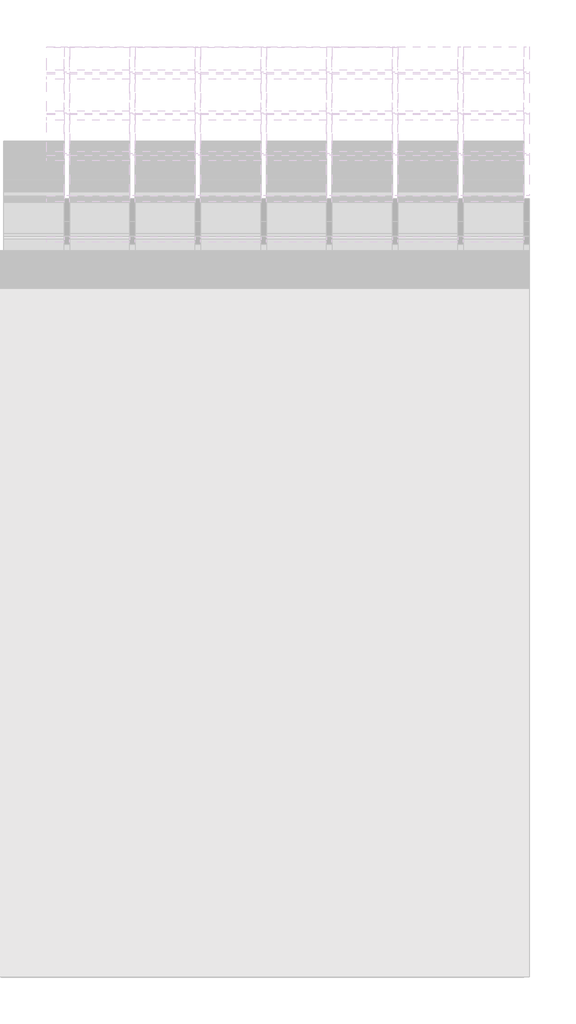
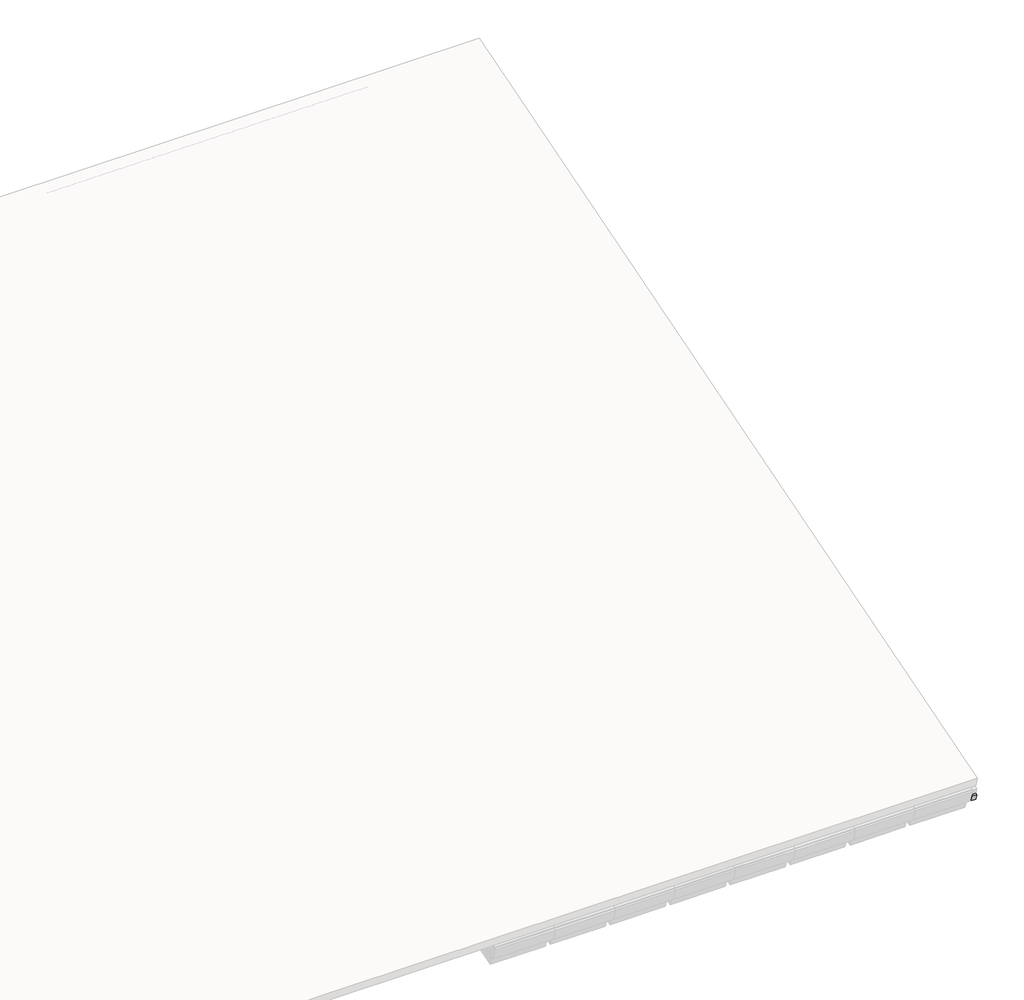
# One storey, part 53 of 57: 77 members, 46 plates.
"""IFC4 building model written with IfcOpenShell, lengths in millimetres."""

from ifc_helpers import new_model, si_unit, origin, place, context, project, spatial, transform, mapped, element, save
from components import rectangular_mullion_59984080, rectangular_mullion_2d2423ea, rectangular_mullion_caibro_e4384bba, rectangular_mullion_caibro_7d910be2, rectangular_mullion_caibro_0993a3cf, rectangular_mullion_caibro_9bd7bc61, rectangular_mullion_caibro_1dc24f21, rectangular_mullion_caibro_75ce8668, empty_system_panel_vazio_178faf58, empty_system_panel_vazio_2c78850d

model = new_model("IFC4")

# Units and contexts
model_context = context("Model", 3, world=origin())
ifc_project = project(units=[si_unit("LENGTHUNIT", "METRE", prefix="MILLI")], contexts=[model_context])

# Site, building, storey
site = spatial("IfcSite", under=ifc_project)
building = spatial("IfcBuilding", under=site)
storey = spatial("IfcBuildingStorey", under=building, Name="Nível 2", Elevation=4100.0)

# Members
placement = place(None, origin())
rectangular_mullion_shape = rectangular_mullion_59984080(model_context)
element("IfcMember", 1, ObjectType="Rectangular Mullion : Ripa", at=placement, inside=storey, context=model_context, shape_type="MappedRepresentation", body=[
    mapped(rectangular_mullion_shape, transform((41182.2945762, 9273.1150454, 3931.9836922), x_axis=(0.0, 0.9578262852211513, 0.2873478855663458), y_axis=(0.0, 0.2873478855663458, -0.9578262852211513), z_axis=(-1.0, 0.0, 0.0))),
])
element("IfcMember", 2, ObjectType="Rectangular Mullion : Ripa", at=placement, inside=storey, context=model_context, shape_type="MappedRepresentation", body=[
    mapped(rectangular_mullion_shape, transform((41779.3493326, 9273.1150454, 3931.9836922), x_axis=(0.0, 0.9578262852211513, 0.2873478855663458), y_axis=(0.0, 0.2873478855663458, -0.9578262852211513), z_axis=(-1.0, 0.0, 0.0))),
])
element("IfcMember", 3, ObjectType="Rectangular Mullion : Ripa", at=placement, inside=storey, context=model_context, shape_type="MappedRepresentation", body=[
    mapped(rectangular_mullion_shape, transform((41182.2945762, 9643.2923041, 4043.0368698), x_axis=(0.0, 0.9578262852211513, 0.2873478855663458), y_axis=(0.0, 0.2873478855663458, -0.9578262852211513), z_axis=(-1.0, 0.0, 0.0))),
])
element("IfcMember", 4, ObjectType="Rectangular Mullion : Ripa", at=placement, inside=storey, context=model_context, shape_type="MappedRepresentation", body=[
    mapped(rectangular_mullion_shape, transform((41779.3493326, 9643.2923041, 4043.0368698), x_axis=(0.0, 0.9578262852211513, 0.2873478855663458), y_axis=(0.0, 0.2873478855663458, -0.9578262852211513), z_axis=(-1.0, 0.0, 0.0))),
])
element("IfcMember", 5, ObjectType="Rectangular Mullion : Ripa", at=placement, inside=storey, context=model_context, shape_type="MappedRepresentation", body=[
    mapped(rectangular_mullion_shape, transform((40585.2398198, 10013.4695628, 4154.0900474), x_axis=(0.0, 0.9578262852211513, 0.2873478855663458), y_axis=(0.0, 0.2873478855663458, -0.9578262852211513), z_axis=(-1.0, 0.0, 0.0))),
])
element("IfcMember", 6, ObjectType="Rectangular Mullion : Ripa", at=placement, inside=storey, context=model_context, shape_type="MappedRepresentation", body=[
    mapped(rectangular_mullion_shape, transform((41182.2945762, 10013.4695628, 4154.0900474), x_axis=(0.0, 0.9578262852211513, 0.2873478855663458), y_axis=(0.0, 0.2873478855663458, -0.9578262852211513), z_axis=(-1.0, 0.0, 0.0))),
])
element("IfcMember", 7, ObjectType="Rectangular Mullion : Ripa", at=placement, inside=storey, context=model_context, shape_type="MappedRepresentation", body=[
    mapped(rectangular_mullion_shape, transform((41779.3493326, 10013.4695628, 4154.0900474), x_axis=(0.0, 0.9578262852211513, 0.2873478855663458), y_axis=(0.0, 0.2873478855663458, -0.9578262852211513), z_axis=(-1.0, 0.0, 0.0))),
])
element("IfcMember", 8, ObjectType="Rectangular Mullion : Ripa", at=placement, inside=storey, context=model_context, shape_type="MappedRepresentation", body=[
    mapped(rectangular_mullion_shape, transform((40585.2398198, 10383.6468214, 4265.143225), x_axis=(0.0, 0.9578262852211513, 0.2873478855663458), y_axis=(0.0, 0.2873478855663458, -0.9578262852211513), z_axis=(-1.0, 0.0, 0.0))),
])
element("IfcMember", 9, ObjectType="Rectangular Mullion : Ripa", at=placement, inside=storey, context=model_context, shape_type="MappedRepresentation", body=[
    mapped(rectangular_mullion_shape, transform((41182.2945762, 10383.6468214, 4265.143225), x_axis=(0.0, 0.9578262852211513, 0.2873478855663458), y_axis=(0.0, 0.2873478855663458, -0.9578262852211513), z_axis=(-1.0, 0.0, 0.0))),
])
element("IfcMember", 10, ObjectType="Rectangular Mullion : Ripa", at=placement, inside=storey, context=model_context, shape_type="MappedRepresentation", body=[
    mapped(rectangular_mullion_shape, transform((41779.3493326, 10383.6468214, 4265.143225), x_axis=(0.0, 0.9578262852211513, 0.2873478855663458), y_axis=(0.0, 0.2873478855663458, -0.9578262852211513), z_axis=(-1.0, 0.0, 0.0))),
])
element("IfcMember", 11, ObjectType="Rectangular Mullion : Ripa", at=placement, inside=storey, context=model_context, shape_type="MappedRepresentation", body=[
    mapped(rectangular_mullion_shape, transform((40585.2398198, 10753.8240801, 4376.1964026), x_axis=(0.0, 0.9578262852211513, 0.2873478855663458), y_axis=(0.0, 0.2873478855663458, -0.9578262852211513), z_axis=(-1.0, 0.0, 0.0))),
])
element("IfcMember", 12, ObjectType="Rectangular Mullion : Ripa", at=placement, inside=storey, context=model_context, shape_type="MappedRepresentation", body=[
    mapped(rectangular_mullion_shape, transform((41182.2945762, 10753.8240801, 4376.1964026), x_axis=(0.0, 0.9578262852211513, 0.2873478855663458), y_axis=(0.0, 0.2873478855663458, -0.9578262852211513), z_axis=(-1.0, 0.0, 0.0))),
])
element("IfcMember", 13, ObjectType="Rectangular Mullion : Ripa", at=placement, inside=storey, context=model_context, shape_type="MappedRepresentation", body=[
    mapped(rectangular_mullion_shape, transform((41779.3493326, 10753.8240801, 4376.1964026), x_axis=(0.0, 0.9578262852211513, 0.2873478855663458), y_axis=(0.0, 0.2873478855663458, -0.9578262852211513), z_axis=(-1.0, 0.0, 0.0))),
])
element("IfcMember", 14, ObjectType="Rectangular Mullion : Ripa", at=placement, inside=storey, context=model_context, shape_type="MappedRepresentation", body=[
    mapped(rectangular_mullion_shape, transform((40585.2398198, 11124.0013387, 4487.2495802), x_axis=(0.0, 0.9578262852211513, 0.2873478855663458), y_axis=(0.0, 0.2873478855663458, -0.9578262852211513), z_axis=(-1.0, 0.0, 0.0))),
])
element("IfcMember", 15, ObjectType="Rectangular Mullion : Ripa", at=placement, inside=storey, context=model_context, shape_type="MappedRepresentation", body=[
    mapped(rectangular_mullion_shape, transform((41182.2945762, 11124.0013387, 4487.2495802), x_axis=(0.0, 0.9578262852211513, 0.2873478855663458), y_axis=(0.0, 0.2873478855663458, -0.9578262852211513), z_axis=(-1.0, 0.0, 0.0))),
])
element("IfcMember", 16, ObjectType="Rectangular Mullion : Ripa", at=placement, inside=storey, context=model_context, shape_type="MappedRepresentation", body=[
    mapped(rectangular_mullion_shape, transform((41779.3493326, 11124.0013387, 4487.2495802), x_axis=(0.0, 0.9578262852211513, 0.2873478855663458), y_axis=(0.0, 0.2873478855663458, -0.9578262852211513), z_axis=(-1.0, 0.0, 0.0))),
])
element("IfcMember", 17, ObjectType="Rectangular Mullion : Ripa", at=placement, inside=storey, context=model_context, shape_type="MappedRepresentation", body=[
    mapped(rectangular_mullion_shape, transform((40585.2398198, 11494.1785974, 4598.3027578), x_axis=(0.0, 0.9578262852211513, 0.2873478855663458), y_axis=(0.0, 0.2873478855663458, -0.9578262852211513), z_axis=(-1.0, 0.0, 0.0))),
])
element("IfcMember", 18, ObjectType="Rectangular Mullion : Ripa", at=placement, inside=storey, context=model_context, shape_type="MappedRepresentation", body=[
    mapped(rectangular_mullion_shape, transform((41182.2945762, 11494.1785974, 4598.3027578), x_axis=(0.0, 0.9578262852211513, 0.2873478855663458), y_axis=(0.0, 0.2873478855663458, -0.9578262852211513), z_axis=(-1.0, 0.0, 0.0))),
])
element("IfcMember", 19, ObjectType="Rectangular Mullion : Ripa", at=placement, inside=storey, context=model_context, shape_type="MappedRepresentation", body=[
    mapped(rectangular_mullion_shape, transform((41779.3493326, 11494.1785974, 4598.3027578), x_axis=(0.0, 0.9578262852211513, 0.2873478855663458), y_axis=(0.0, 0.2873478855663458, -0.9578262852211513), z_axis=(-1.0, 0.0, 0.0))),
])
element("IfcMember", 20, ObjectType="Rectangular Mullion : Ripa", at=placement, inside=storey, context=model_context, shape_type="MappedRepresentation", body=[
    mapped(rectangular_mullion_shape, transform((40585.2398198, 11864.3558561, 4709.3559354), x_axis=(0.0, 0.9578262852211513, 0.2873478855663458), y_axis=(0.0, 0.2873478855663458, -0.9578262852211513), z_axis=(-1.0, 0.0, 0.0))),
])
element("IfcMember", 21, ObjectType="Rectangular Mullion : Ripa", at=placement, inside=storey, context=model_context, shape_type="MappedRepresentation", body=[
    mapped(rectangular_mullion_shape, transform((41182.2945762, 11864.3558561, 4709.3559354), x_axis=(0.0, 0.9578262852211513, 0.2873478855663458), y_axis=(0.0, 0.2873478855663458, -0.9578262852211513), z_axis=(-1.0, 0.0, 0.0))),
])
element("IfcMember", 22, ObjectType="Rectangular Mullion : Ripa", at=placement, inside=storey, context=model_context, shape_type="MappedRepresentation", body=[
    mapped(rectangular_mullion_shape, transform((41779.3493326, 11864.3558561, 4709.3559354), x_axis=(0.0, 0.9578262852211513, 0.2873478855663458), y_axis=(0.0, 0.2873478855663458, -0.9578262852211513), z_axis=(-1.0, 0.0, 0.0))),
])
element("IfcMember", 23, ObjectType="Rectangular Mullion : Ripa", at=placement, inside=storey, context=model_context, shape_type="MappedRepresentation", body=[
    mapped(rectangular_mullion_shape, transform((40585.2398198, 12234.5331147, 4820.409113), x_axis=(0.0, 0.9578262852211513, 0.2873478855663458), y_axis=(0.0, 0.2873478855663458, -0.9578262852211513), z_axis=(-1.0, 0.0, 0.0))),
])
element("IfcMember", 24, ObjectType="Rectangular Mullion : Ripa", at=placement, inside=storey, context=model_context, shape_type="MappedRepresentation", body=[
    mapped(rectangular_mullion_shape, transform((40585.2398198, 12604.7103734, 4931.4622906), x_axis=(0.0, 0.9578262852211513, 0.2873478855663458), y_axis=(0.0, 0.2873478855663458, -0.9578262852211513), z_axis=(-1.0, 0.0, 0.0))),
])
element("IfcMember", 25, ObjectType="Rectangular Mullion : Ripa", at=placement, inside=storey, context=model_context, shape_type="MappedRepresentation", body=[
    mapped(rectangular_mullion_shape, transform((40585.2398198, 12974.8876321, 5042.5154682), x_axis=(0.0, 0.9578262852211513, 0.2873478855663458), y_axis=(0.0, 0.2873478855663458, -0.9578262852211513), z_axis=(-1.0, 0.0, 0.0))),
])
rectangular_mullion_2_shape = rectangular_mullion_2d2423ea(model_context)
element("IfcMember", 26, ObjectType="Rectangular Mullion : Terça", at=placement, inside=storey, context=model_context, shape_type="MappedRepresentation", body=[
    mapped(rectangular_mullion_2_shape, transform((40585.2398198, 9159.0196393, 3835.1132313), x_axis=(0.0, 0.9578262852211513, 0.2873478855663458), y_axis=(0.0, 0.2873478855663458, -0.9578262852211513), z_axis=(-1.0, 0.0, 0.0))),
])
element("IfcMember", 27, ObjectType="Rectangular Mullion : Terça", at=placement, inside=storey, context=model_context, shape_type="MappedRepresentation", body=[
    mapped(rectangular_mullion_2_shape, transform((41182.2945762, 9159.0196393, 3835.1132313), x_axis=(0.0, 0.9578262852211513, 0.2873478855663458), y_axis=(0.0, 0.2873478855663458, -0.9578262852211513), z_axis=(-1.0, 0.0, 0.0))),
])
element("IfcMember", 28, ObjectType="Rectangular Mullion : Terça", at=placement, inside=storey, context=model_context, shape_type="MappedRepresentation", body=[
    mapped(rectangular_mullion_2_shape, transform((41779.3493326, 9159.0196393, 3835.1132313), x_axis=(0.0, 0.9578262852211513, 0.2873478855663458), y_axis=(0.0, 0.2873478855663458, -0.9578262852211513), z_axis=(-1.0, 0.0, 0.0))),
])
element("IfcMember", 29, ObjectType="Rectangular Mullion : Terça", at=placement, inside=storey, context=model_context, shape_type="MappedRepresentation", body=[
    mapped(rectangular_mullion_2_shape, transform((40585.2398198, 11285.144311, 4472.9506328), x_axis=(0.0, 0.9578262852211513, 0.2873478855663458), y_axis=(0.0, 0.2873478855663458, -0.9578262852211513), z_axis=(-1.0, 0.0, 0.0))),
])
element("IfcMember", 30, ObjectType="Rectangular Mullion : Terça", at=placement, inside=storey, context=model_context, shape_type="MappedRepresentation", body=[
    mapped(rectangular_mullion_2_shape, transform((41182.2945762, 11285.144311, 4472.9506328), x_axis=(0.0, 0.9578262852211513, 0.2873478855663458), y_axis=(0.0, 0.2873478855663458, -0.9578262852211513), z_axis=(-1.0, 0.0, 0.0))),
])
element("IfcMember", 31, ObjectType="Rectangular Mullion : Terça", at=placement, inside=storey, context=model_context, shape_type="MappedRepresentation", body=[
    mapped(rectangular_mullion_2_shape, transform((41779.3493326, 11285.144311, 4472.9506328), x_axis=(0.0, 0.9578262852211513, 0.2873478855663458), y_axis=(0.0, 0.2873478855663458, -0.9578262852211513), z_axis=(-1.0, 0.0, 0.0))),
])
rectangular_mullion_caibro_shape = rectangular_mullion_caibro_e4384bba(model_context)
element("IfcMember", 32, ObjectType="Rectangular Mullion : Caibro", at=placement, inside=storey, context=model_context, shape_type="MappedRepresentation", body=[
    mapped(rectangular_mullion_caibro_shape, transform((40560.2398198, 10013.4695628, 4154.0900474), x_axis=(1.0, 0.0, 0.0), y_axis=(0.0, 0.28734788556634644, -0.9578262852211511), z_axis=(0.0, 0.957826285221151, 0.2873478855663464))),
])
element("IfcMember", 33, ObjectType="Rectangular Mullion : Caibro", at=placement, inside=storey, context=model_context, shape_type="MappedRepresentation", body=[
    mapped(rectangular_mullion_caibro_shape, transform((40560.2398198, 10383.6468214, 4265.143225), x_axis=(1.0, 0.0, 0.0), y_axis=(0.0, 0.28734788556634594, -0.9578262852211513), z_axis=(0.0, 0.9578262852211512, 0.2873478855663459))),
])
element("IfcMember", 34, ObjectType="Rectangular Mullion : Caibro", at=placement, inside=storey, context=model_context, shape_type="MappedRepresentation", body=[
    mapped(rectangular_mullion_caibro_shape, transform((40560.2398198, 10753.8240801, 4376.1964026), x_axis=(1.0, 0.0, 0.0), y_axis=(0.0, 0.28734788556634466, -0.9578262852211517), z_axis=(0.0, 0.9578262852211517, 0.28734788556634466))),
])
element("IfcMember", 35, ObjectType="Rectangular Mullion : Caibro", at=placement, inside=storey, context=model_context, shape_type="MappedRepresentation", body=[
    mapped(rectangular_mullion_caibro_shape, transform((40560.2398198, 11124.0013387, 4487.2495802), x_axis=(1.0, 0.0, 0.0), y_axis=(0.0, 0.2873478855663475, -0.9578262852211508), z_axis=(0.0, 0.9578262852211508, 0.2873478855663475))),
])
element("IfcMember", 36, ObjectType="Rectangular Mullion : Caibro", at=placement, inside=storey, context=model_context, shape_type="MappedRepresentation", body=[
    mapped(rectangular_mullion_caibro_shape, transform((40560.2398198, 11494.1785974, 4598.3027578), x_axis=(1.0, 0.0, 0.0), y_axis=(0.0, 0.28734788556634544, -0.9578262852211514), z_axis=(0.0, 0.9578262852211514, 0.28734788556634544))),
])
element("IfcMember", 37, ObjectType="Rectangular Mullion : Caibro", at=placement, inside=storey, context=model_context, shape_type="MappedRepresentation", body=[
    mapped(rectangular_mullion_caibro_shape, transform((40560.2398198, 11864.3558561, 4709.3559354), x_axis=(1.0, 0.0, 0.0), y_axis=(0.0, 0.28734788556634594, -0.9578262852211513), z_axis=(0.0, 0.9578262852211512, 0.2873478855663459))),
])
element("IfcMember", 38, ObjectType="Rectangular Mullion : Caibro", at=placement, inside=storey, context=model_context, shape_type="MappedRepresentation", body=[
    mapped(rectangular_mullion_caibro_shape, transform((40560.2398198, 12234.5331147, 4820.409113), x_axis=(1.0, 0.0, 0.0), y_axis=(0.0, 0.2873478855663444, -0.9578262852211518), z_axis=(0.0, 0.9578262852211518, 0.2873478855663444))),
])
element("IfcMember", 39, ObjectType="Rectangular Mullion : Caibro", at=placement, inside=storey, context=model_context, shape_type="MappedRepresentation", body=[
    mapped(rectangular_mullion_caibro_shape, transform((40560.2398198, 12604.7103734, 4931.4622906), x_axis=(1.0, 0.0, 0.0), y_axis=(0.0, 0.2873478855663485, -0.9578262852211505), z_axis=(0.0, 0.9578262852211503, 0.28734788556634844))),
])
element("IfcMember", 40, ObjectType="Rectangular Mullion : Caibro", at=placement, inside=storey, context=model_context, shape_type="MappedRepresentation", body=[
    mapped(rectangular_mullion_caibro_shape, transform((40560.2398198, 12974.8876321, 5042.5154682), x_axis=(1.0, 0.0, 0.0), y_axis=(0.0, 0.2873478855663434, -0.957826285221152), z_axis=(0.0, 0.957826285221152, 0.2873478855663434))),
])
element("IfcMember", 41, ObjectType="Rectangular Mullion : Caibro", at=placement, inside=storey, context=model_context, shape_type="MappedRepresentation", body=[
    mapped(rectangular_mullion_caibro_shape, transform((41157.2945762, 9273.1150454, 3931.9836922), x_axis=(1.0, 0.0, 0.0), y_axis=(0.0, 0.2873478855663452, -0.9578262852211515), z_axis=(0.0, 0.9578262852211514, 0.28734788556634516))),
])
element("IfcMember", 42, ObjectType="Rectangular Mullion : Caibro", at=placement, inside=storey, context=model_context, shape_type="MappedRepresentation", body=[
    mapped(rectangular_mullion_caibro_shape, transform((41157.2945762, 9643.2923041, 4043.0368698), x_axis=(1.0, 0.0, 0.0), y_axis=(0.0, 0.2873478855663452, -0.9578262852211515), z_axis=(0.0, 0.9578262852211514, 0.28734788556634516))),
])
element("IfcMember", 43, ObjectType="Rectangular Mullion : Caibro", at=placement, inside=storey, context=model_context, shape_type="MappedRepresentation", body=[
    mapped(rectangular_mullion_caibro_shape, transform((41157.2945762, 10013.4695628, 4154.0900474), x_axis=(1.0, 0.0, 0.0), y_axis=(0.0, 0.28734788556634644, -0.9578262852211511), z_axis=(0.0, 0.957826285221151, 0.2873478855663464))),
])
element("IfcMember", 44, ObjectType="Rectangular Mullion : Caibro", at=placement, inside=storey, context=model_context, shape_type="MappedRepresentation", body=[
    mapped(rectangular_mullion_caibro_shape, transform((41157.2945762, 10383.6468214, 4265.143225), x_axis=(1.0, 0.0, 0.0), y_axis=(0.0, 0.28734788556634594, -0.9578262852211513), z_axis=(0.0, 0.9578262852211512, 0.2873478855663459))),
])
element("IfcMember", 45, ObjectType="Rectangular Mullion : Caibro", at=placement, inside=storey, context=model_context, shape_type="MappedRepresentation", body=[
    mapped(rectangular_mullion_caibro_shape, transform((41157.2945762, 10753.8240801, 4376.1964026), x_axis=(1.0, 0.0, 0.0), y_axis=(0.0, 0.28734788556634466, -0.9578262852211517), z_axis=(0.0, 0.9578262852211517, 0.28734788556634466))),
])
element("IfcMember", 46, ObjectType="Rectangular Mullion : Caibro", at=placement, inside=storey, context=model_context, shape_type="MappedRepresentation", body=[
    mapped(rectangular_mullion_caibro_shape, transform((41157.2945762, 11124.0013387, 4487.2495802), x_axis=(1.0, 0.0, 0.0), y_axis=(0.0, 0.2873478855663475, -0.9578262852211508), z_axis=(0.0, 0.9578262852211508, 0.2873478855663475))),
])
element("IfcMember", 47, ObjectType="Rectangular Mullion : Caibro", at=placement, inside=storey, context=model_context, shape_type="MappedRepresentation", body=[
    mapped(rectangular_mullion_caibro_shape, transform((41157.2945762, 11494.1785974, 4598.3027578), x_axis=(1.0, 0.0, 0.0), y_axis=(0.0, 0.28734788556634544, -0.9578262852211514), z_axis=(0.0, 0.9578262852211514, 0.28734788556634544))),
])
element("IfcMember", 48, ObjectType="Rectangular Mullion : Caibro", at=placement, inside=storey, context=model_context, shape_type="MappedRepresentation", body=[
    mapped(rectangular_mullion_caibro_shape, transform((41157.2945762, 11864.3558561, 4709.3559354), x_axis=(1.0, 0.0, 0.0), y_axis=(0.0, 0.28734788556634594, -0.9578262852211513), z_axis=(0.0, 0.9578262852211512, 0.2873478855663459))),
])
element("IfcMember", 49, ObjectType="Rectangular Mullion : Caibro", at=placement, inside=storey, context=model_context, shape_type="MappedRepresentation", body=[
    mapped(rectangular_mullion_caibro_shape, transform((41157.2945762, 12234.5331147, 4820.409113), x_axis=(1.0, 0.0, 0.0), y_axis=(0.0, 0.2873478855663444, -0.9578262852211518), z_axis=(0.0, 0.9578262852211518, 0.2873478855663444))),
])
element("IfcMember", 50, ObjectType="Rectangular Mullion : Caibro", at=placement, inside=storey, context=model_context, shape_type="MappedRepresentation", body=[
    mapped(rectangular_mullion_caibro_shape, transform((41157.2945762, 12604.7103734, 4931.4622906), x_axis=(1.0, 0.0, 0.0), y_axis=(0.0, 0.2873478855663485, -0.9578262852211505), z_axis=(0.0, 0.9578262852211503, 0.28734788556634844))),
])
element("IfcMember", 51, ObjectType="Rectangular Mullion : Caibro", at=placement, inside=storey, context=model_context, shape_type="MappedRepresentation", body=[
    mapped(rectangular_mullion_caibro_shape, transform((41157.2945762, 12974.8876321, 5042.5154682), x_axis=(1.0, 0.0, 0.0), y_axis=(0.0, 0.2873478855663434, -0.957826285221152), z_axis=(0.0, 0.957826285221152, 0.2873478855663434))),
])
element("IfcMember", 52, ObjectType="Rectangular Mullion : Caibro", at=placement, inside=storey, context=model_context, shape_type="MappedRepresentation", body=[
    mapped(rectangular_mullion_caibro_shape, transform((41754.3493326, 9273.1150454, 3931.9836922), x_axis=(1.0, 0.0, 0.0), y_axis=(0.0, 0.2873478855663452, -0.9578262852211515), z_axis=(0.0, 0.9578262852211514, 0.28734788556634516))),
])
element("IfcMember", 53, ObjectType="Rectangular Mullion : Caibro", at=placement, inside=storey, context=model_context, shape_type="MappedRepresentation", body=[
    mapped(rectangular_mullion_caibro_shape, transform((41754.3493326, 9643.2923041, 4043.0368698), x_axis=(1.0, 0.0, 0.0), y_axis=(0.0, 0.2873478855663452, -0.9578262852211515), z_axis=(0.0, 0.9578262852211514, 0.28734788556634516))),
])
element("IfcMember", 54, ObjectType="Rectangular Mullion : Caibro", at=placement, inside=storey, context=model_context, shape_type="MappedRepresentation", body=[
    mapped(rectangular_mullion_caibro_shape, transform((41754.3493326, 10013.4695628, 4154.0900474), x_axis=(1.0, 0.0, 0.0), y_axis=(0.0, 0.28734788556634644, -0.9578262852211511), z_axis=(0.0, 0.957826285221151, 0.2873478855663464))),
])
element("IfcMember", 55, ObjectType="Rectangular Mullion : Caibro", at=placement, inside=storey, context=model_context, shape_type="MappedRepresentation", body=[
    mapped(rectangular_mullion_caibro_shape, transform((41754.3493326, 10383.6468214, 4265.143225), x_axis=(1.0, 0.0, 0.0), y_axis=(0.0, 0.28734788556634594, -0.9578262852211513), z_axis=(0.0, 0.9578262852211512, 0.2873478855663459))),
])
element("IfcMember", 56, ObjectType="Rectangular Mullion : Caibro", at=placement, inside=storey, context=model_context, shape_type="MappedRepresentation", body=[
    mapped(rectangular_mullion_caibro_shape, transform((41754.3493326, 10753.8240801, 4376.1964026), x_axis=(1.0, 0.0, 0.0), y_axis=(0.0, 0.28734788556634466, -0.9578262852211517), z_axis=(0.0, 0.9578262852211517, 0.28734788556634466))),
])
element("IfcMember", 57, ObjectType="Rectangular Mullion : Caibro", at=placement, inside=storey, context=model_context, shape_type="MappedRepresentation", body=[
    mapped(rectangular_mullion_caibro_shape, transform((41754.3493326, 11124.0013387, 4487.2495802), x_axis=(1.0, 0.0, 0.0), y_axis=(0.0, 0.2873478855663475, -0.9578262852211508), z_axis=(0.0, 0.9578262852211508, 0.2873478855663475))),
])
element("IfcMember", 58, ObjectType="Rectangular Mullion : Caibro", at=placement, inside=storey, context=model_context, shape_type="MappedRepresentation", body=[
    mapped(rectangular_mullion_caibro_shape, transform((41754.3493326, 11494.1785974, 4598.3027578), x_axis=(1.0, 0.0, 0.0), y_axis=(0.0, 0.28734788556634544, -0.9578262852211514), z_axis=(0.0, 0.9578262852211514, 0.28734788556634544))),
])
element("IfcMember", 59, ObjectType="Rectangular Mullion : Caibro", at=placement, inside=storey, context=model_context, shape_type="MappedRepresentation", body=[
    mapped(rectangular_mullion_caibro_shape, transform((41754.3493326, 11864.3558561, 4709.3559354), x_axis=(1.0, 0.0, 0.0), y_axis=(0.0, 0.28734788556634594, -0.9578262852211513), z_axis=(0.0, 0.9578262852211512, 0.2873478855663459))),
])
rectangular_mullion_caibro_2_shape = rectangular_mullion_caibro_7d910be2(model_context)
element("IfcMember", 60, ObjectType="Rectangular Mullion : Caibro", at=placement, inside=storey, context=model_context, shape_type="MappedRepresentation", body=[
    mapped(rectangular_mullion_caibro_2_shape, transform((42376.4040894, 8162.5832694, 3598.8241594), x_axis=(1.0, 0.0, 0.0), y_axis=(0.0, 0.28734788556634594, -0.9578262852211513), z_axis=(0.0, 0.9578262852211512, 0.2873478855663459))),
])
element("IfcMember", 61, ObjectType="Rectangular Mullion : Caibro", at=placement, inside=storey, context=model_context, shape_type="MappedRepresentation", body=[
    mapped(rectangular_mullion_caibro_2_shape, transform((42376.4040894, 8532.7605281, 3709.877337), x_axis=(1.0, 0.0, 0.0), y_axis=(0.0, 0.2873478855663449, -0.9578262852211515), z_axis=(0.0, 0.9578262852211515, 0.2873478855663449))),
])
element("IfcMember", 62, ObjectType="Rectangular Mullion : Caibro", at=placement, inside=storey, context=model_context, shape_type="MappedRepresentation", body=[
    mapped(rectangular_mullion_caibro_2_shape, transform((42376.4040894, 8902.9377868, 3820.9305146), x_axis=(1.0, 0.0, 0.0), y_axis=(0.0, 0.2873478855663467, -0.9578262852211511), z_axis=(0.0, 0.9578262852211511, 0.2873478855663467))),
])
element("IfcMember", 63, ObjectType="Rectangular Mullion : Caibro", at=placement, inside=storey, context=model_context, shape_type="MappedRepresentation", body=[
    mapped(rectangular_mullion_caibro_2_shape, transform((42376.4040894, 9273.1150454, 3931.9836922), x_axis=(1.0, 0.0, 0.0), y_axis=(0.0, 0.2873478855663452, -0.9578262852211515), z_axis=(0.0, 0.9578262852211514, 0.28734788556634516))),
])
element("IfcMember", 64, ObjectType="Rectangular Mullion : Caibro", at=placement, inside=storey, context=model_context, shape_type="MappedRepresentation", body=[
    mapped(rectangular_mullion_caibro_2_shape, transform((42376.4040894, 9643.2923041, 4043.0368698), x_axis=(1.0, 0.0, 0.0), y_axis=(0.0, 0.2873478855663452, -0.9578262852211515), z_axis=(0.0, 0.9578262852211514, 0.28734788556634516))),
])
element("IfcMember", 65, ObjectType="Rectangular Mullion : Caibro", at=placement, inside=storey, context=model_context, shape_type="MappedRepresentation", body=[
    mapped(rectangular_mullion_caibro_2_shape, transform((42376.4040894, 10013.4695628, 4154.0900474), x_axis=(1.0, 0.0, 0.0), y_axis=(0.0, 0.28734788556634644, -0.9578262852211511), z_axis=(0.0, 0.957826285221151, 0.2873478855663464))),
])
element("IfcMember", 66, ObjectType="Rectangular Mullion : Caibro", at=placement, inside=storey, context=model_context, shape_type="MappedRepresentation", body=[
    mapped(rectangular_mullion_caibro_2_shape, transform((42376.4040894, 10383.6468214, 4265.143225), x_axis=(1.0, 0.0, 0.0), y_axis=(0.0, 0.28734788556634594, -0.9578262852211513), z_axis=(0.0, 0.9578262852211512, 0.2873478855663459))),
])
element("IfcMember", 67, ObjectType="Rectangular Mullion : Caibro", at=placement, inside=storey, context=model_context, shape_type="MappedRepresentation", body=[
    mapped(rectangular_mullion_caibro_2_shape, transform((42376.4040894, 10753.8240801, 4376.1964026), x_axis=(1.0, 0.0, 0.0), y_axis=(0.0, 0.28734788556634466, -0.9578262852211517), z_axis=(0.0, 0.9578262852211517, 0.28734788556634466))),
])
element("IfcMember", 68, ObjectType="Rectangular Mullion : Caibro", at=placement, inside=storey, context=model_context, shape_type="MappedRepresentation", body=[
    mapped(rectangular_mullion_caibro_2_shape, transform((42376.4040894, 11124.0013387, 4487.2495802), x_axis=(1.0, 0.0, 0.0), y_axis=(0.0, 0.2873478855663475, -0.9578262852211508), z_axis=(0.0, 0.9578262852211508, 0.2873478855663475))),
])
element("IfcMember", 69, ObjectType="Rectangular Mullion : Caibro", at=placement, inside=storey, context=model_context, shape_type="MappedRepresentation", body=[
    mapped(rectangular_mullion_caibro_2_shape, transform((42376.4040894, 11494.1785974, 4598.3027578), x_axis=(1.0, 0.0, 0.0), y_axis=(0.0, 0.28734788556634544, -0.9578262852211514), z_axis=(0.0, 0.9578262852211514, 0.28734788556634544))),
])
element("IfcMember", 70, ObjectType="Rectangular Mullion : Caibro", at=placement, inside=storey, context=model_context, shape_type="MappedRepresentation", body=[
    mapped(rectangular_mullion_caibro_2_shape, transform((42376.4040894, 11864.3558561, 4709.3559354), x_axis=(1.0, 0.0, 0.0), y_axis=(0.0, 0.28734788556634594, -0.9578262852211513), z_axis=(0.0, 0.9578262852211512, 0.2873478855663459))),
])
rectangular_mullion_caibro_3_shape = rectangular_mullion_caibro_0993a3cf(model_context)
element("IfcMember", 71, ObjectType="Rectangular Mullion : Caibro", at=placement, inside=storey, context=model_context, shape_type="MappedRepresentation", body=[
    mapped(rectangular_mullion_caibro_3_shape, transform((41157.2945762, 9159.0196393, 3835.1132313), x_axis=(1.0, 0.0, 0.0), y_axis=(0.0, 0.2873478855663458, -0.9578262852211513), z_axis=(0.0, 0.9578262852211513, 0.2873478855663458))),
])
element("IfcMember", 72, ObjectType="Rectangular Mullion : Caibro", at=placement, inside=storey, context=model_context, shape_type="MappedRepresentation", body=[
    mapped(rectangular_mullion_caibro_3_shape, transform((41754.3493326, 9159.0196393, 3835.1132313), x_axis=(1.0, 0.0, 0.0), y_axis=(0.0, 0.2873478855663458, -0.9578262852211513), z_axis=(0.0, 0.9578262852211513, 0.2873478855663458))),
])
rectangular_mullion_caibro_4_shape = rectangular_mullion_caibro_9bd7bc61(model_context)
element("IfcMember", 73, ObjectType="Rectangular Mullion : Caibro", at=placement, inside=storey, context=model_context, shape_type="MappedRepresentation", body=[
    mapped(rectangular_mullion_caibro_4_shape, transform((40560.2398198, 11285.144311, 4472.9506328), x_axis=(1.0, 0.0, 0.0), y_axis=(0.0, 0.28734788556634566, -0.9578262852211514), z_axis=(0.0, 0.9578262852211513, 0.2873478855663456))),
])
element("IfcMember", 74, ObjectType="Rectangular Mullion : Caibro", at=placement, inside=storey, context=model_context, shape_type="MappedRepresentation", body=[
    mapped(rectangular_mullion_caibro_4_shape, transform((41157.2945762, 11285.144311, 4472.9506328), x_axis=(1.0, 0.0, 0.0), y_axis=(0.0, 0.28734788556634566, -0.9578262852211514), z_axis=(0.0, 0.9578262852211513, 0.2873478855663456))),
])
element("IfcMember", 75, ObjectType="Rectangular Mullion : Caibro", at=placement, inside=storey, context=model_context, shape_type="MappedRepresentation", body=[
    mapped(rectangular_mullion_caibro_4_shape, transform((41754.3493326, 11285.144311, 4472.9506328), x_axis=(1.0, 0.0, 0.0), y_axis=(0.0, 0.28734788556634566, -0.9578262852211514), z_axis=(0.0, 0.9578262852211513, 0.2873478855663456))),
])
rectangular_mullion_caibro_5_shape = rectangular_mullion_caibro_1dc24f21(model_context)
element("IfcMember", 76, ObjectType="Rectangular Mullion : Caibro", at=placement, inside=storey, context=model_context, shape_type="MappedRepresentation", body=[
    mapped(rectangular_mullion_caibro_5_shape, transform((42376.4040894, 9159.0196393, 3835.1132313), x_axis=(1.0, 0.0, 0.0), y_axis=(0.0, 0.2873478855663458, -0.9578262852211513), z_axis=(0.0, 0.9578262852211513, 0.2873478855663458))),
])
rectangular_mullion_caibro_6_shape = rectangular_mullion_caibro_75ce8668(model_context)
element("IfcMember", 77, ObjectType="Rectangular Mullion : Caibro", at=placement, inside=storey, context=model_context, shape_type="MappedRepresentation", body=[
    mapped(rectangular_mullion_caibro_6_shape, transform((42376.4040894, 11285.144311, 4472.9506328), x_axis=(1.0, 0.0, 0.0), y_axis=(0.0, 0.28734788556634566, -0.9578262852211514), z_axis=(0.0, 0.9578262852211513, 0.2873478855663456))),
])

# Plates
empty_system_panel_vazio_shape = empty_system_panel_vazio_178faf58(model_context)
element("IfcPlate", 78, ObjectType="Empty System Panel : Vazio", at=placement, inside=storey, context=model_context, shape_type="MappedRepresentation", body=[
    mapped(empty_system_panel_vazio_shape, transform((42052.876711, 8162.5832694, 3598.8241594), x_axis=(1.0, 0.0, 0.0), y_axis=(0.0, 0.2873478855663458, -0.9578262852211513), z_axis=(0.0, 0.9578262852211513, 0.2873478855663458))),
])
element("IfcPlate", 79, ObjectType="Empty System Panel : Vazio", at=placement, inside=storey, context=model_context, shape_type="MappedRepresentation", body=[
    mapped(empty_system_panel_vazio_shape, transform((42052.876711, 8532.7605281, 3709.877337), x_axis=(1.0, 0.0, 0.0), y_axis=(0.0, 0.2873478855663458, -0.9578262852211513), z_axis=(0.0, 0.9578262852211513, 0.2873478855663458))),
])
element("IfcPlate", 80, ObjectType="Empty System Panel : Vazio", at=placement, inside=storey, context=model_context, shape_type="MappedRepresentation", body=[
    mapped(empty_system_panel_vazio_shape, transform((42052.876711, 8902.9377868, 3820.9305146), x_axis=(1.0, 0.0, 0.0), y_axis=(0.0, 0.2873478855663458, -0.9578262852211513), z_axis=(0.0, 0.9578262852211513, 0.2873478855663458))),
])
element("IfcPlate", 81, ObjectType="Empty System Panel : Vazio", at=placement, inside=storey, context=model_context, shape_type="MappedRepresentation", body=[
    mapped(empty_system_panel_vazio_shape, transform((41455.8219544, 9273.1150454, 3931.9836922), x_axis=(1.0, 0.0, 0.0), y_axis=(0.0, 0.2873478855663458, -0.9578262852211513), z_axis=(0.0, 0.9578262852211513, 0.2873478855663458))),
])
element("IfcPlate", 82, ObjectType="Empty System Panel : Vazio", at=placement, inside=storey, context=model_context, shape_type="MappedRepresentation", body=[
    mapped(empty_system_panel_vazio_shape, transform((42052.876711, 9273.1150454, 3931.9836922), x_axis=(1.0, 0.0, 0.0), y_axis=(0.0, 0.2873478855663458, -0.9578262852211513), z_axis=(0.0, 0.9578262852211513, 0.2873478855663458))),
])
element("IfcPlate", 83, ObjectType="Empty System Panel : Vazio", at=placement, inside=storey, context=model_context, shape_type="MappedRepresentation", body=[
    mapped(empty_system_panel_vazio_shape, transform((41455.8219544, 9643.2923041, 4043.0368698), x_axis=(1.0, 0.0, 0.0), y_axis=(0.0, 0.2873478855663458, -0.9578262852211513), z_axis=(0.0, 0.9578262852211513, 0.2873478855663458))),
])
element("IfcPlate", 84, ObjectType="Empty System Panel : Vazio", at=placement, inside=storey, context=model_context, shape_type="MappedRepresentation", body=[
    mapped(empty_system_panel_vazio_shape, transform((42052.876711, 9643.2923041, 4043.0368698), x_axis=(1.0, 0.0, 0.0), y_axis=(0.0, 0.2873478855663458, -0.9578262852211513), z_axis=(0.0, 0.9578262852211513, 0.2873478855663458))),
])
element("IfcPlate", 85, ObjectType="Empty System Panel : Vazio", at=placement, inside=storey, context=model_context, shape_type="MappedRepresentation", body=[
    mapped(empty_system_panel_vazio_shape, transform((40261.7124416, 10013.4695628, 4154.0900474), x_axis=(1.0, 0.0, 0.0), y_axis=(0.0, 0.2873478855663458, -0.9578262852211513), z_axis=(0.0, 0.9578262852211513, 0.2873478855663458))),
])
element("IfcPlate", 86, ObjectType="Empty System Panel : Vazio", at=placement, inside=storey, context=model_context, shape_type="MappedRepresentation", body=[
    mapped(empty_system_panel_vazio_shape, transform((40858.767198, 10013.4695628, 4154.0900474), x_axis=(1.0, 0.0, 0.0), y_axis=(0.0, 0.2873478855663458, -0.9578262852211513), z_axis=(0.0, 0.9578262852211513, 0.2873478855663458))),
])
element("IfcPlate", 87, ObjectType="Empty System Panel : Vazio", at=placement, inside=storey, context=model_context, shape_type="MappedRepresentation", body=[
    mapped(empty_system_panel_vazio_shape, transform((41455.8219544, 10013.4695628, 4154.0900474), x_axis=(1.0, 0.0, 0.0), y_axis=(0.0, 0.2873478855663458, -0.9578262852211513), z_axis=(0.0, 0.9578262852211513, 0.2873478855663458))),
])
element("IfcPlate", 88, ObjectType="Empty System Panel : Vazio", at=placement, inside=storey, context=model_context, shape_type="MappedRepresentation", body=[
    mapped(empty_system_panel_vazio_shape, transform((42052.876711, 10013.4695628, 4154.0900474), x_axis=(1.0, 0.0, 0.0), y_axis=(0.0, 0.2873478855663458, -0.9578262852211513), z_axis=(0.0, 0.9578262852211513, 0.2873478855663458))),
])
element("IfcPlate", 89, ObjectType="Empty System Panel : Vazio", at=placement, inside=storey, context=model_context, shape_type="MappedRepresentation", body=[
    mapped(empty_system_panel_vazio_shape, transform((40261.7124416, 10383.6468214, 4265.143225), x_axis=(1.0, 0.0, 0.0), y_axis=(0.0, 0.2873478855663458, -0.9578262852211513), z_axis=(0.0, 0.9578262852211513, 0.2873478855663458))),
])
element("IfcPlate", 90, ObjectType="Empty System Panel : Vazio", at=placement, inside=storey, context=model_context, shape_type="MappedRepresentation", body=[
    mapped(empty_system_panel_vazio_shape, transform((40858.767198, 10383.6468214, 4265.143225), x_axis=(1.0, 0.0, 0.0), y_axis=(0.0, 0.2873478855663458, -0.9578262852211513), z_axis=(0.0, 0.9578262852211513, 0.2873478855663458))),
])
element("IfcPlate", 91, ObjectType="Empty System Panel : Vazio", at=placement, inside=storey, context=model_context, shape_type="MappedRepresentation", body=[
    mapped(empty_system_panel_vazio_shape, transform((41455.8219544, 10383.6468214, 4265.143225), x_axis=(1.0, 0.0, 0.0), y_axis=(0.0, 0.2873478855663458, -0.9578262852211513), z_axis=(0.0, 0.9578262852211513, 0.2873478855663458))),
])
element("IfcPlate", 92, ObjectType="Empty System Panel : Vazio", at=placement, inside=storey, context=model_context, shape_type="MappedRepresentation", body=[
    mapped(empty_system_panel_vazio_shape, transform((42052.876711, 10383.6468214, 4265.143225), x_axis=(1.0, 0.0, 0.0), y_axis=(0.0, 0.2873478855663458, -0.9578262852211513), z_axis=(0.0, 0.9578262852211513, 0.2873478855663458))),
])
element("IfcPlate", 93, ObjectType="Empty System Panel : Vazio", at=placement, inside=storey, context=model_context, shape_type="MappedRepresentation", body=[
    mapped(empty_system_panel_vazio_shape, transform((40261.7124416, 10753.8240801, 4376.1964026), x_axis=(1.0, 0.0, 0.0), y_axis=(0.0, 0.2873478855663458, -0.9578262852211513), z_axis=(0.0, 0.9578262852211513, 0.2873478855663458))),
])
element("IfcPlate", 94, ObjectType="Empty System Panel : Vazio", at=placement, inside=storey, context=model_context, shape_type="MappedRepresentation", body=[
    mapped(empty_system_panel_vazio_shape, transform((40858.767198, 10753.8240801, 4376.1964026), x_axis=(1.0, 0.0, 0.0), y_axis=(0.0, 0.2873478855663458, -0.9578262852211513), z_axis=(0.0, 0.9578262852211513, 0.2873478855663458))),
])
element("IfcPlate", 95, ObjectType="Empty System Panel : Vazio", at=placement, inside=storey, context=model_context, shape_type="MappedRepresentation", body=[
    mapped(empty_system_panel_vazio_shape, transform((41455.8219544, 10753.8240801, 4376.1964026), x_axis=(1.0, 0.0, 0.0), y_axis=(0.0, 0.2873478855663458, -0.9578262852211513), z_axis=(0.0, 0.9578262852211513, 0.2873478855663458))),
])
element("IfcPlate", 96, ObjectType="Empty System Panel : Vazio", at=placement, inside=storey, context=model_context, shape_type="MappedRepresentation", body=[
    mapped(empty_system_panel_vazio_shape, transform((42052.876711, 10753.8240801, 4376.1964026), x_axis=(1.0, 0.0, 0.0), y_axis=(0.0, 0.2873478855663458, -0.9578262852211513), z_axis=(0.0, 0.9578262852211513, 0.2873478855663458))),
])
element("IfcPlate", 97, ObjectType="Empty System Panel : Vazio", at=placement, inside=storey, context=model_context, shape_type="MappedRepresentation", body=[
    mapped(empty_system_panel_vazio_shape, transform((40261.7124416, 11124.0013387, 4487.2495802), x_axis=(1.0, 0.0, 0.0), y_axis=(0.0, 0.2873478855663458, -0.9578262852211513), z_axis=(0.0, 0.9578262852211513, 0.2873478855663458))),
])
element("IfcPlate", 98, ObjectType="Empty System Panel : Vazio", at=placement, inside=storey, context=model_context, shape_type="MappedRepresentation", body=[
    mapped(empty_system_panel_vazio_shape, transform((40858.767198, 11124.0013387, 4487.2495802), x_axis=(1.0, 0.0, 0.0), y_axis=(0.0, 0.2873478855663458, -0.9578262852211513), z_axis=(0.0, 0.9578262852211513, 0.2873478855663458))),
])
element("IfcPlate", 99, ObjectType="Empty System Panel : Vazio", at=placement, inside=storey, context=model_context, shape_type="MappedRepresentation", body=[
    mapped(empty_system_panel_vazio_shape, transform((41455.8219544, 11124.0013387, 4487.2495802), x_axis=(1.0, 0.0, 0.0), y_axis=(0.0, 0.2873478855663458, -0.9578262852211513), z_axis=(0.0, 0.9578262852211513, 0.2873478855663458))),
])
element("IfcPlate", 100, ObjectType="Empty System Panel : Vazio", at=placement, inside=storey, context=model_context, shape_type="MappedRepresentation", body=[
    mapped(empty_system_panel_vazio_shape, transform((42052.876711, 11124.0013387, 4487.2495802), x_axis=(1.0, 0.0, 0.0), y_axis=(0.0, 0.2873478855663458, -0.9578262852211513), z_axis=(0.0, 0.9578262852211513, 0.2873478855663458))),
])
element("IfcPlate", 101, ObjectType="Empty System Panel : Vazio", at=placement, inside=storey, context=model_context, shape_type="MappedRepresentation", body=[
    mapped(empty_system_panel_vazio_shape, transform((40261.7124416, 11494.1785974, 4598.3027578), x_axis=(1.0, 0.0, 0.0), y_axis=(0.0, 0.2873478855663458, -0.9578262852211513), z_axis=(0.0, 0.9578262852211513, 0.2873478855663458))),
])
element("IfcPlate", 102, ObjectType="Empty System Panel : Vazio", at=placement, inside=storey, context=model_context, shape_type="MappedRepresentation", body=[
    mapped(empty_system_panel_vazio_shape, transform((40858.767198, 11494.1785974, 4598.3027578), x_axis=(1.0, 0.0, 0.0), y_axis=(0.0, 0.2873478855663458, -0.9578262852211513), z_axis=(0.0, 0.9578262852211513, 0.2873478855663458))),
])
element("IfcPlate", 103, ObjectType="Empty System Panel : Vazio", at=placement, inside=storey, context=model_context, shape_type="MappedRepresentation", body=[
    mapped(empty_system_panel_vazio_shape, transform((41455.8219544, 11494.1785974, 4598.3027578), x_axis=(1.0, 0.0, 0.0), y_axis=(0.0, 0.2873478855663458, -0.9578262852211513), z_axis=(0.0, 0.9578262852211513, 0.2873478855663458))),
])
element("IfcPlate", 104, ObjectType="Empty System Panel : Vazio", at=placement, inside=storey, context=model_context, shape_type="MappedRepresentation", body=[
    mapped(empty_system_panel_vazio_shape, transform((42052.876711, 11494.1785974, 4598.3027578), x_axis=(1.0, 0.0, 0.0), y_axis=(0.0, 0.2873478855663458, -0.9578262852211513), z_axis=(0.0, 0.9578262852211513, 0.2873478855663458))),
])
element("IfcPlate", 105, ObjectType="Empty System Panel : Vazio", at=placement, inside=storey, context=model_context, shape_type="MappedRepresentation", body=[
    mapped(empty_system_panel_vazio_shape, transform((40261.7124416, 11864.3558561, 4709.3559354), x_axis=(1.0, 0.0, 0.0), y_axis=(0.0, 0.2873478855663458, -0.9578262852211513), z_axis=(0.0, 0.9578262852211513, 0.2873478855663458))),
])
element("IfcPlate", 106, ObjectType="Empty System Panel : Vazio", at=placement, inside=storey, context=model_context, shape_type="MappedRepresentation", body=[
    mapped(empty_system_panel_vazio_shape, transform((40858.767198, 11864.3558561, 4709.3559354), x_axis=(1.0, 0.0, 0.0), y_axis=(0.0, 0.2873478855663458, -0.9578262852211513), z_axis=(0.0, 0.9578262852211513, 0.2873478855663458))),
])
element("IfcPlate", 107, ObjectType="Empty System Panel : Vazio", at=placement, inside=storey, context=model_context, shape_type="MappedRepresentation", body=[
    mapped(empty_system_panel_vazio_shape, transform((41455.8219544, 11864.3558561, 4709.3559354), x_axis=(1.0, 0.0, 0.0), y_axis=(0.0, 0.2873478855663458, -0.9578262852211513), z_axis=(0.0, 0.9578262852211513, 0.2873478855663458))),
])
element("IfcPlate", 108, ObjectType="Empty System Panel : Vazio", at=placement, inside=storey, context=model_context, shape_type="MappedRepresentation", body=[
    mapped(empty_system_panel_vazio_shape, transform((42052.876711, 11864.3558561, 4709.3559354), x_axis=(1.0, 0.0, 0.0), y_axis=(0.0, 0.2873478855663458, -0.9578262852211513), z_axis=(0.0, 0.9578262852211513, 0.2873478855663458))),
])
element("IfcPlate", 109, ObjectType="Empty System Panel : Vazio", at=placement, inside=storey, context=model_context, shape_type="MappedRepresentation", body=[
    mapped(empty_system_panel_vazio_shape, transform((40261.7124416, 12234.5331147, 4820.409113), x_axis=(1.0, 0.0, 0.0), y_axis=(0.0, 0.2873478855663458, -0.9578262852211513), z_axis=(0.0, 0.9578262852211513, 0.2873478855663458))),
])
element("IfcPlate", 110, ObjectType="Empty System Panel : Vazio", at=placement, inside=storey, context=model_context, shape_type="MappedRepresentation", body=[
    mapped(empty_system_panel_vazio_shape, transform((40858.767198, 12234.5331147, 4820.409113), x_axis=(1.0, 0.0, 0.0), y_axis=(0.0, 0.2873478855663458, -0.9578262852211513), z_axis=(0.0, 0.9578262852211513, 0.2873478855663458))),
])
element("IfcPlate", 111, ObjectType="Empty System Panel : Vazio", at=placement, inside=storey, context=model_context, shape_type="MappedRepresentation", body=[
    mapped(empty_system_panel_vazio_shape, transform((41455.8219544, 12234.5331147, 4820.409113), x_axis=(1.0, 0.0, 0.0), y_axis=(0.0, 0.2873478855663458, -0.9578262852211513), z_axis=(0.0, 0.9578262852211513, 0.2873478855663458))),
])
element("IfcPlate", 112, ObjectType="Empty System Panel : Vazio", at=placement, inside=storey, context=model_context, shape_type="MappedRepresentation", body=[
    mapped(empty_system_panel_vazio_shape, transform((40261.7124416, 12604.7103734, 4931.4622906), x_axis=(1.0, 0.0, 0.0), y_axis=(0.0, 0.2873478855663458, -0.9578262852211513), z_axis=(0.0, 0.9578262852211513, 0.2873478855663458))),
])
element("IfcPlate", 113, ObjectType="Empty System Panel : Vazio", at=placement, inside=storey, context=model_context, shape_type="MappedRepresentation", body=[
    mapped(empty_system_panel_vazio_shape, transform((40858.767198, 12604.7103734, 4931.4622906), x_axis=(1.0, 0.0, 0.0), y_axis=(0.0, 0.2873478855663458, -0.9578262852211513), z_axis=(0.0, 0.9578262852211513, 0.2873478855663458))),
])
element("IfcPlate", 114, ObjectType="Empty System Panel : Vazio", at=placement, inside=storey, context=model_context, shape_type="MappedRepresentation", body=[
    mapped(empty_system_panel_vazio_shape, transform((41455.8219544, 12604.7103734, 4931.4622906), x_axis=(1.0, 0.0, 0.0), y_axis=(0.0, 0.2873478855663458, -0.9578262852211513), z_axis=(0.0, 0.9578262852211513, 0.2873478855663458))),
])
element("IfcPlate", 115, ObjectType="Empty System Panel : Vazio", at=placement, inside=storey, context=model_context, shape_type="MappedRepresentation", body=[
    mapped(empty_system_panel_vazio_shape, transform((40261.7124416, 12974.8876321, 5042.5154682), x_axis=(1.0, 0.0, 0.0), y_axis=(0.0, 0.2873478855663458, -0.9578262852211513), z_axis=(0.0, 0.9578262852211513, 0.2873478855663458))),
])
element("IfcPlate", 116, ObjectType="Empty System Panel : Vazio", at=placement, inside=storey, context=model_context, shape_type="MappedRepresentation", body=[
    mapped(empty_system_panel_vazio_shape, transform((40858.767198, 12974.8876321, 5042.5154682), x_axis=(1.0, 0.0, 0.0), y_axis=(0.0, 0.2873478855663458, -0.9578262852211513), z_axis=(0.0, 0.9578262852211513, 0.2873478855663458))),
])
element("IfcPlate", 117, ObjectType="Empty System Panel : Vazio", at=placement, inside=storey, context=model_context, shape_type="MappedRepresentation", body=[
    mapped(empty_system_panel_vazio_shape, transform((41455.8219544, 12974.8876321, 5042.5154682), x_axis=(1.0, 0.0, 0.0), y_axis=(0.0, 0.2873478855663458, -0.9578262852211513), z_axis=(0.0, 0.9578262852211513, 0.2873478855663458))),
])
empty_system_panel_vazio_2_shape = empty_system_panel_vazio_2c78850d(model_context)
element("IfcPlate", 118, ObjectType="Empty System Panel : Vazio", at=placement, inside=storey, context=model_context, shape_type="MappedRepresentation", body=[
    mapped(empty_system_panel_vazio_2_shape, transform((41455.8219544, 9187.7544279, 3843.7336679), x_axis=(1.0, 0.0, 0.0), y_axis=(0.0, 0.2873478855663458, -0.9578262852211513), z_axis=(0.0, 0.9578262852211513, 0.2873478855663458))),
])
element("IfcPlate", 119, ObjectType="Empty System Panel : Vazio", at=placement, inside=storey, context=model_context, shape_type="MappedRepresentation", body=[
    mapped(empty_system_panel_vazio_2_shape, transform((42052.876711, 9187.7544279, 3843.7336679), x_axis=(1.0, 0.0, 0.0), y_axis=(0.0, 0.2873478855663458, -0.9578262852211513), z_axis=(0.0, 0.9578262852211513, 0.2873478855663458))),
])
element("IfcPlate", 120, ObjectType="Empty System Panel : Vazio", at=placement, inside=storey, context=model_context, shape_type="MappedRepresentation", body=[
    mapped(empty_system_panel_vazio_2_shape, transform((40261.7124416, 11313.8790995, 4481.5710693), x_axis=(1.0, 0.0, 0.0), y_axis=(0.0, 0.2873478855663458, -0.9578262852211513), z_axis=(0.0, 0.9578262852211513, 0.2873478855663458))),
])
element("IfcPlate", 121, ObjectType="Empty System Panel : Vazio", at=placement, inside=storey, context=model_context, shape_type="MappedRepresentation", body=[
    mapped(empty_system_panel_vazio_2_shape, transform((40858.767198, 11313.8790995, 4481.5710693), x_axis=(1.0, 0.0, 0.0), y_axis=(0.0, 0.2873478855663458, -0.9578262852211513), z_axis=(0.0, 0.9578262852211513, 0.2873478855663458))),
])
element("IfcPlate", 122, ObjectType="Empty System Panel : Vazio", at=placement, inside=storey, context=model_context, shape_type="MappedRepresentation", body=[
    mapped(empty_system_panel_vazio_2_shape, transform((41455.8219544, 11313.8790995, 4481.5710693), x_axis=(1.0, 0.0, 0.0), y_axis=(0.0, 0.2873478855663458, -0.9578262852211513), z_axis=(0.0, 0.9578262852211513, 0.2873478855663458))),
])
element("IfcPlate", 123, ObjectType="Empty System Panel : Vazio", at=placement, inside=storey, context=model_context, shape_type="MappedRepresentation", body=[
    mapped(empty_system_panel_vazio_2_shape, transform((42052.876711, 11313.8790995, 4481.5710693), x_axis=(1.0, 0.0, 0.0), y_axis=(0.0, 0.2873478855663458, -0.9578262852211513), z_axis=(0.0, 0.9578262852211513, 0.2873478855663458))),
])

save(model, "model.ifc")
